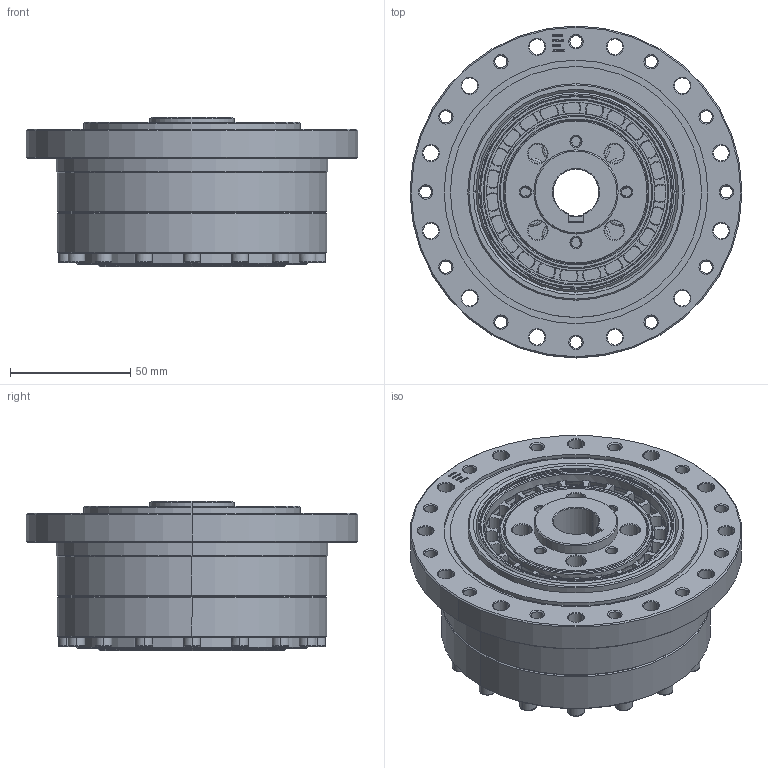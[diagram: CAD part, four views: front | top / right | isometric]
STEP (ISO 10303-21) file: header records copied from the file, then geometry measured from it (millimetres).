
FILE_DESCRIPTION (( 'STEP AP203' ), '1' );
FILE_NAME ('CS-32-XX-U-I-LF-¦Õ19.STEP', '2024-09-12T07:16:02', ( 'Windows User' ), ( 'P R C' ), 'SwSTEP 2.0', 'SolidWorks 2016', '' );
FILE_SCHEMA (( 'CONFIG_CONTROL_DESIGN' ));
Products named in the file (1): CS-32-XX-U-I-LF-耳19
Bounding box: 138 x 138 x 62 mm (x, y, z)
Volume: 408015.1 mm3; surface area: 192451.3 mm2
Topology: 38 solids, 38 shells, 2498 faces, 5949 edges, 3592 vertices
Faces by surface type: plane 888, cone 768, cylinder 481, bspline 361
Entity records: 86419 total; most frequent: CARTESIAN_POINT 29874, ORIENTED_EDGE 11730, DIRECTION 11677, EDGE_CURVE 5865, AXIS2_PLACEMENT_3D 4422, VERTEX_POINT 3592, EDGE_LOOP 2843, LINE 2833
